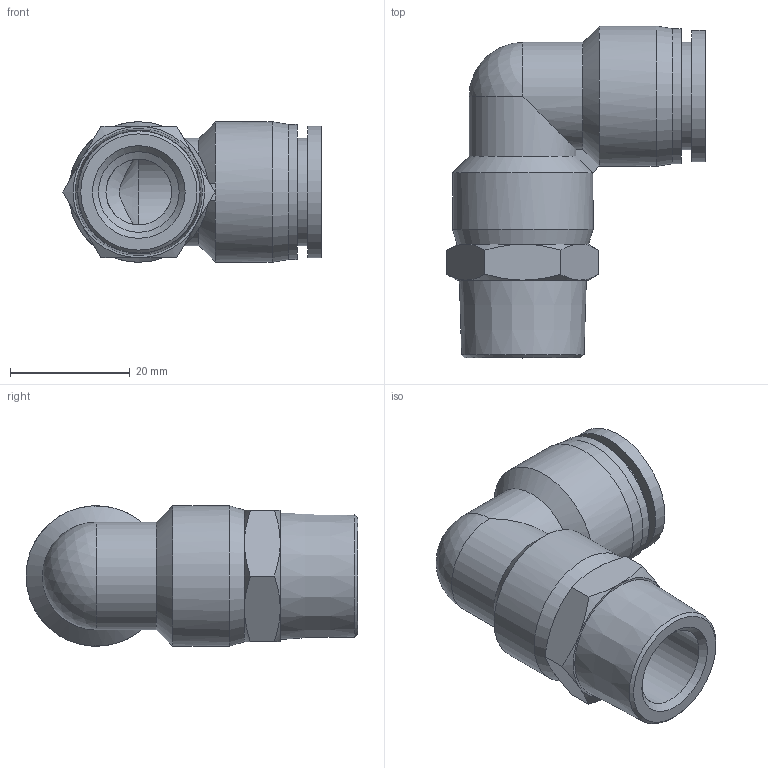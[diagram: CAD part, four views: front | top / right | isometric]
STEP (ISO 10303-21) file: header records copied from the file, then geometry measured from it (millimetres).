
FILE_DESCRIPTION((''),'2;1');
FILE_NAME('S:\UTecnico\ArchivioUT\Speciali Clienti\Speciali KONFIT\Plastica\RP\RP 72K\RP72K1214.stp','2012-05-18T09:00:45',('UT5'),(''),'Autodesk Inventor 2012','Autodesk Inventor 2012','');
FILE_SCHEMA(('AUTOMOTIVE_DESIGN { 1 0 10303 214 1 1 1 1 }'));
Length unit declared in the file: millimetre
Products named in the file (1): RP72K1214
Bounding box: 43.2 x 55.55 x 23.5 mm (x, y, z)
Volume: 16088.2 mm3; surface area: 8765.1 mm2
Topology: 1 solids, 1 shells, 47 faces, 108 edges, 66 vertices
Faces by surface type: cone 22, plane 14, cylinder 10, sphere 1
Full cylindrical faces by diameter (mm): 11 x1, 13.5 x1, 14 x1, 18 x1, 22 x1, 22.6 x1, 23.5 x2
Entity records: 1268 total; most frequent: CARTESIAN_POINT 300, DIRECTION 192, ORIENTED_EDGE 176, AXIS2_PLACEMENT_3D 88, EDGE_CURVE 88, EDGE_LOOP 66, VERTEX_POINT 60, FACE_OUTER_BOUND 47
